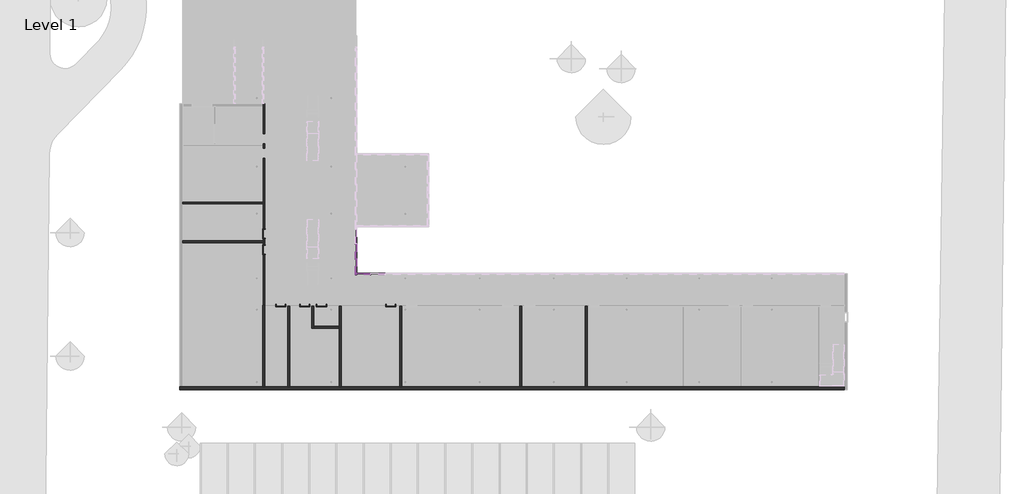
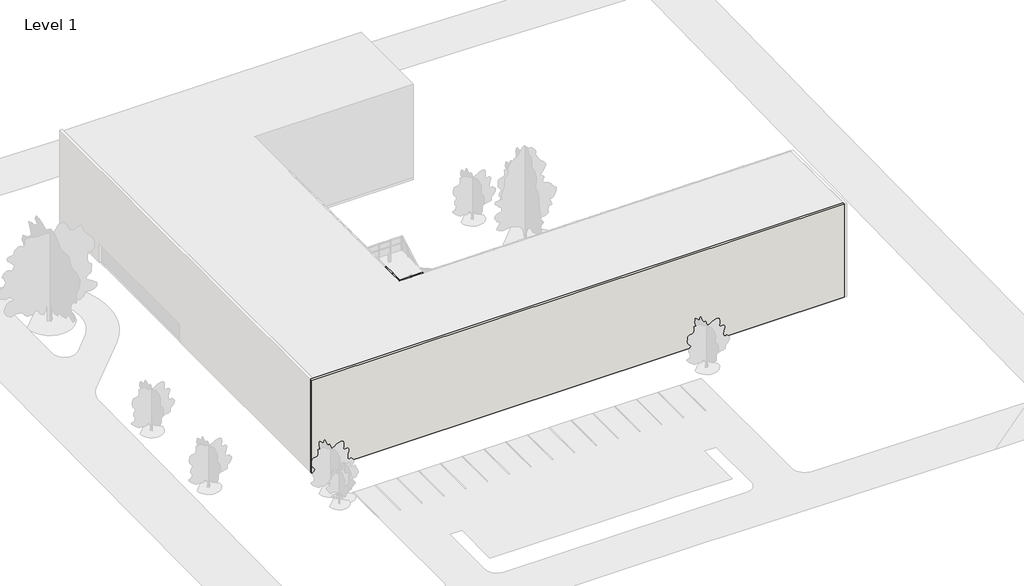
# One storey, part 1 of 23: 60 members, 32 plates, 12 walls, 6 doors.
"""IFC4 building model written with IfcOpenShell, lengths in millimetres."""

from ifc_helpers import new_model, si_unit, origin, origin_with_axes, place, context, project, spatial, polyline, outline, extrude, faceted_brep, transform, mapped, element, save
from components import door_0915mm_x_2134mm_2aa27b83, door_0915mm_x_2134mm_3fa07aa3, quad_corner_mullion_quad_mullion_1_893af7fe, quad_corner_mullion_quad_mullion_1_37ac55ff, quad_corner_mullion_quad_mullion_1_d5379b67, rectangular_mullion_50mm_x_150mm_5f185edf, rectangular_mullion_50mm_x_150mm_e13fe9f0, rectangular_mullion_50mm_x_150mm_70cae3e1, rectangular_mullion_50mm_x_150mm_5226f6e8, rectangular_mullion_50mm_x_150mm_4fd86324, rectangular_mullion_50mm_x_150mm_6edb5cd3, rectangular_mullion_50mm_x_150mm_bba830a1, rectangular_mullion_50mm_x_150mm_9219ffc6, rectangular_mullion_50mm_x_150mm_bbc1c4ea, rectangular_mullion_50mm_x_150mm_36202a7c, rectangular_mullion_50mm_x_150mm_84717ec5, system_panel_glazed_65478968, system_panel_glazed_0eb4fe1c, system_panel_glazed_4c130a31, system_panel_glazed_ff4bdd81, system_panel_glazed_979b1f5c, system_panel_glazed_2d0f29b6, system_panel_glazed_2f061a2c, system_panel_glazed_cb2ac81e, system_panel_solid_368a6b70, system_panel_solid_83e87f64, system_panel_solid_59448bce, system_panel_solid_281aa57f, system_panel_solid_7338a288, system_panel_solid_71fc82a1, system_panel_solid_0b170172

model = new_model("IFC4")

# Units and contexts
model_context = context("Model", 3, world=origin())
ifc_project = project(units=[si_unit("LENGTHUNIT", "METRE", prefix="MILLI")], contexts=[model_context])

# Site, building, storey
site = spatial("IfcSite", under=ifc_project)
building = spatial("IfcBuilding", under=site)
storey = spatial("IfcBuildingStorey", under=building, Name="Level 1", Elevation=0.0)

# Doors
placement = place(None, origin())
door_0915mm_x_2134mm_shape = door_0915mm_x_2134mm_2aa27b83(model_context)
element("IfcDoor", 1, ObjectType="m-doors-hm-f1-a : 0915mm x 2134mm", at=placement, inside=storey, context=model_context, shape_type="MappedRepresentation", body=[
    mapped(door_0915mm_x_2134mm_shape, transform((-1995.8386635, -8075.8611817, 0.0), x_axis=(0.0, 1.0, 0.0), y_axis=(-1.0, 0.0, 0.0), z_axis=(0.0, 0.0, 1.0))),
])
element("IfcDoor", 2, ObjectType="m-doors-hm-f1-a : 0915mm x 2134mm", at=placement, inside=storey, context=model_context, shape_type="MappedRepresentation", body=[
    mapped(door_0915mm_x_2134mm_shape, transform((-123.8386635, -15479.7006057, 0.0), x_axis=(-1.0, 0.0, 0.0), y_axis=(0.0, -1.0, 0.0), z_axis=(0.0, 0.0, 1.0))),
])
element("IfcDoor", 3, ObjectType="m-doors-hm-f1-a : 0915mm x 2134mm", at=placement, inside=storey, context=model_context, shape_type="MappedRepresentation", body=[
    mapped(door_0915mm_x_2134mm_shape, transform((2284.1613365, -15479.7006057, 0.0), x_axis=(-1.0, 0.0, 0.0), y_axis=(0.0, -1.0, 0.0), z_axis=(0.0, 0.0, 1.0))),
])
element("IfcDoor", 4, ObjectType="m-doors-hm-f1-a : 0915mm x 2134mm", at=placement, inside=storey, context=model_context, shape_type="MappedRepresentation", body=[
    mapped(door_0915mm_x_2134mm_shape, transform((10961.1968037, -15479.7006057, 0.0), x_axis=(-1.0, 0.0, 0.0), y_axis=(0.0, -1.0, 0.0), z_axis=(0.0, 0.0, 1.0))),
])
door_0915mm_x_2134mm_2_shape = door_0915mm_x_2134mm_3fa07aa3(model_context)
element("IfcDoor", 5, ObjectType="m-doors-hm-f1-a : 0915mm x 2134mm", at=placement, inside=storey, context=model_context, shape_type="MappedRepresentation", body=[
    mapped(door_0915mm_x_2134mm_2_shape, transform((-1995.8386635, -9675.8611817, 0.0), x_axis=(0.0, -1.0, 0.0), y_axis=(1.0, 0.0, 0.0), z_axis=(0.0, 0.0, 1.0))),
])
element("IfcDoor", 6, ObjectType="m-doors-hm-f1-a : 0915mm x 2134mm", at=placement, inside=storey, context=model_context, shape_type="MappedRepresentation", body=[
    mapped(door_0915mm_x_2134mm_2_shape, transform((3984.1613365, -15479.7006057, 0.0), x_axis=(1.0, 0.0, 0.0), y_axis=(0.0, 1.0, 0.0), z_axis=(0.0, 0.0, 1.0))),
])

# Members
quad_corner_mullion_quad_mullion_1_shape = quad_corner_mullion_quad_mullion_1_893af7fe(model_context)
element("IfcMember", 7, ObjectType="Quad Corner Mullion : Quad Mullion 1", at=placement, inside=storey, context=model_context, shape_type="MappedRepresentation", body=[
    mapped(quad_corner_mullion_quad_mullion_1_shape, transform((7447.5010724, -12132.3615692, 11400.0), x_axis=(-1.0, 0.0, 0.0), y_axis=(0.0, 1.0, 0.0), z_axis=(0.0, 0.0, -1.0))),
])
quad_corner_mullion_quad_mullion_1_2_shape = quad_corner_mullion_quad_mullion_1_37ac55ff(model_context)
element("IfcMember", 8, ObjectType="Quad Corner Mullion : Quad Mullion 1", at=placement, inside=storey, context=model_context, shape_type="MappedRepresentation", body=[
    mapped(quad_corner_mullion_quad_mullion_1_2_shape, transform((7447.5010724, -12132.3615692, 0.0), x_axis=(-1.0, 0.0, 0.0), y_axis=(0.0, 1.0, 0.0), z_axis=(0.0, 0.0, -1.0))),
])
quad_corner_mullion_quad_mullion_1_3_shape = quad_corner_mullion_quad_mullion_1_d5379b67(model_context)
element("IfcMember", 9, ObjectType="Quad Corner Mullion : Quad Mullion 1", at=placement, inside=storey, context=model_context, shape_type="MappedRepresentation", body=[
    mapped(quad_corner_mullion_quad_mullion_1_3_shape, transform((7447.5010724, -12132.3615692, 2440.0), x_axis=(-1.0, 0.0, 0.0), y_axis=(0.0, 1.0, 0.0), z_axis=(0.0, 0.0, -1.0))),
])
element("IfcMember", 10, ObjectType="Quad Corner Mullion : Quad Mullion 1", at=placement, inside=storey, context=model_context, shape_type="MappedRepresentation", body=[
    mapped(quad_corner_mullion_quad_mullion_1_3_shape, transform((7447.5010724, -12132.3615692, 6240.0), x_axis=(-1.0, 0.0, 0.0), y_axis=(0.0, 1.0, 0.0), z_axis=(0.0, 0.0, -1.0))),
])
element("IfcMember", 11, ObjectType="Quad Corner Mullion : Quad Mullion 1", at=placement, inside=storey, context=model_context, shape_type="MappedRepresentation", body=[
    mapped(quad_corner_mullion_quad_mullion_1_3_shape, transform((7447.5010724, -12132.3615692, 10040.0), x_axis=(-1.0, 0.0, 0.0), y_axis=(0.0, 1.0, 0.0), z_axis=(0.0, 0.0, -1.0))),
])
element("IfcMember", 12, ObjectType="Quad Corner Mullion : Quad Mullion 1", at=placement, inside=storey, context=model_context, shape_type="MappedRepresentation", body=[
    mapped(quad_corner_mullion_quad_mullion_1_2_shape, transform((7447.5010724, -12132.3615692, 3800.0), x_axis=(-1.0, 0.0, 0.0), y_axis=(0.0, 1.0, 0.0), z_axis=(0.0, 0.0, -1.0))),
])
element("IfcMember", 13, ObjectType="Quad Corner Mullion : Quad Mullion 1", at=placement, inside=storey, context=model_context, shape_type="MappedRepresentation", body=[
    mapped(quad_corner_mullion_quad_mullion_1_2_shape, transform((7447.5010724, -12132.3615692, 7600.0), x_axis=(-1.0, 0.0, 0.0), y_axis=(0.0, 1.0, 0.0), z_axis=(0.0, 0.0, -1.0))),
])
rectangular_mullion_50mm_x_150mm_shape = rectangular_mullion_50mm_x_150mm_5f185edf(model_context)
element("IfcMember", 14, ObjectType="Rectangular Mullion : 50mm x 150mm", at=placement, inside=storey, context=model_context, shape_type="MappedRepresentation", body=[
    mapped(rectangular_mullion_50mm_x_150mm_shape, transform((8964.9742928, -12132.3615692, 12400.0), x_axis=(0.0, 0.0, 1.0), y_axis=(0.0, 1.0, 0.0), z_axis=(-1.0, 0.0, 0.0))),
])
rectangular_mullion_50mm_x_150mm_2_shape = rectangular_mullion_50mm_x_150mm_e13fe9f0(model_context)
element("IfcMember", 15, ObjectType="Rectangular Mullion : 50mm x 150mm", at=placement, inside=storey, context=model_context, shape_type="MappedRepresentation", body=[
    mapped(rectangular_mullion_50mm_x_150mm_2_shape, transform((8964.9742928, -12132.3615692, 3800.0), x_axis=(0.0, 0.0, 1.0), y_axis=(0.0, 1.0, 0.0), z_axis=(-1.0, 0.0, 0.0))),
])
element("IfcMember", 16, ObjectType="Rectangular Mullion : 50mm x 150mm", at=placement, inside=storey, context=model_context, shape_type="MappedRepresentation", body=[
    mapped(rectangular_mullion_50mm_x_150mm_2_shape, transform((8964.9742928, -12132.3615692, 7600.0), x_axis=(0.0, 0.0, 1.0), y_axis=(0.0, 1.0, 0.0), z_axis=(-1.0, 0.0, 0.0))),
])
element("IfcMember", 17, ObjectType="Rectangular Mullion : 50mm x 150mm", at=placement, inside=storey, context=model_context, shape_type="MappedRepresentation", body=[
    mapped(rectangular_mullion_50mm_x_150mm_2_shape, transform((8964.9742928, -12132.3615692, 11400.0), x_axis=(0.0, 0.0, 1.0), y_axis=(0.0, 1.0, 0.0), z_axis=(-1.0, 0.0, 0.0))),
])
element("IfcMember", 18, ObjectType="Rectangular Mullion : 50mm x 150mm", at=placement, inside=storey, context=model_context, shape_type="MappedRepresentation", body=[
    mapped(rectangular_mullion_50mm_x_150mm_2_shape, transform((8964.9742928, -12132.3615692, 2440.0), x_axis=(0.0, 0.0, 1.0), y_axis=(0.0, 1.0, 0.0), z_axis=(-1.0, 0.0, 0.0))),
])
element("IfcMember", 19, ObjectType="Rectangular Mullion : 50mm x 150mm", at=placement, inside=storey, context=model_context, shape_type="MappedRepresentation", body=[
    mapped(rectangular_mullion_50mm_x_150mm_2_shape, transform((8964.9742928, -12132.3615692, 6240.0), x_axis=(0.0, 0.0, 1.0), y_axis=(0.0, 1.0, 0.0), z_axis=(-1.0, 0.0, 0.0))),
])
element("IfcMember", 20, ObjectType="Rectangular Mullion : 50mm x 150mm", at=placement, inside=storey, context=model_context, shape_type="MappedRepresentation", body=[
    mapped(rectangular_mullion_50mm_x_150mm_2_shape, transform((8964.9742928, -12132.3615692, 10040.0), x_axis=(0.0, 0.0, 1.0), y_axis=(0.0, 1.0, 0.0), z_axis=(-1.0, 0.0, 0.0))),
])
rectangular_mullion_50mm_x_150mm_3_shape = rectangular_mullion_50mm_x_150mm_70cae3e1(model_context)
element("IfcMember", 21, ObjectType="Rectangular Mullion : 50mm x 150mm", at=placement, inside=storey, context=model_context, shape_type="MappedRepresentation", body=[
    mapped(rectangular_mullion_50mm_x_150mm_3_shape, transform((7447.5010724, -9152.8662571, 12400.0), x_axis=(0.0, 0.0, 1.0), y_axis=(1.0, 0.0, 0.0), z_axis=(0.0, 1.0, 0.0))),
])
element("IfcMember", 22, ObjectType="Rectangular Mullion : 50mm x 150mm", at=placement, inside=storey, context=model_context, shape_type="MappedRepresentation", body=[
    mapped(rectangular_mullion_50mm_x_150mm_3_shape, transform((7447.5010724, -10605.113913, 0.0), x_axis=(0.0, 0.0, -1.0), y_axis=(1.0, 0.0, 0.0), z_axis=(0.0, -1.0, 0.0))),
])
element("IfcMember", 23, ObjectType="Rectangular Mullion : 50mm x 150mm", at=placement, inside=storey, context=model_context, shape_type="MappedRepresentation", body=[
    mapped(rectangular_mullion_50mm_x_150mm_3_shape, transform((7447.5010724, -9102.8662571, 0.0), x_axis=(0.0, 0.0, -1.0), y_axis=(1.0, 0.0, 0.0), z_axis=(0.0, -1.0, 0.0))),
])
rectangular_mullion_50mm_x_150mm_4_shape = rectangular_mullion_50mm_x_150mm_5226f6e8(model_context)
element("IfcMember", 24, ObjectType="Rectangular Mullion : 50mm x 150mm", at=placement, inside=storey, context=model_context, shape_type="MappedRepresentation", body=[
    mapped(rectangular_mullion_50mm_x_150mm_4_shape, transform((7447.5010724, -9152.8662571, 3800.0), x_axis=(0.0, 0.0, 1.0), y_axis=(1.0, 0.0, 0.0), z_axis=(0.0, 1.0, 0.0))),
])
element("IfcMember", 25, ObjectType="Rectangular Mullion : 50mm x 150mm", at=placement, inside=storey, context=model_context, shape_type="MappedRepresentation", body=[
    mapped(rectangular_mullion_50mm_x_150mm_4_shape, transform((7447.5010724, -9152.8662571, 7600.0), x_axis=(0.0, 0.0, 1.0), y_axis=(1.0, 0.0, 0.0), z_axis=(0.0, 1.0, 0.0))),
])
element("IfcMember", 26, ObjectType="Rectangular Mullion : 50mm x 150mm", at=placement, inside=storey, context=model_context, shape_type="MappedRepresentation", body=[
    mapped(rectangular_mullion_50mm_x_150mm_4_shape, transform((7447.5010724, -9152.8662571, 11400.0), x_axis=(0.0, 0.0, 1.0), y_axis=(1.0, 0.0, 0.0), z_axis=(0.0, 1.0, 0.0))),
])
element("IfcMember", 27, ObjectType="Rectangular Mullion : 50mm x 150mm", at=placement, inside=storey, context=model_context, shape_type="MappedRepresentation", body=[
    mapped(rectangular_mullion_50mm_x_150mm_4_shape, transform((7447.5010724, -9152.8662571, 10040.0), x_axis=(0.0, 0.0, 1.0), y_axis=(1.0, 0.0, 0.0), z_axis=(0.0, 1.0, 0.0))),
])
element("IfcMember", 28, ObjectType="Rectangular Mullion : 50mm x 150mm", at=placement, inside=storey, context=model_context, shape_type="MappedRepresentation", body=[
    mapped(rectangular_mullion_50mm_x_150mm_4_shape, transform((7447.5010724, -9152.8662571, 6240.0), x_axis=(0.0, 0.0, 1.0), y_axis=(1.0, 0.0, 0.0), z_axis=(0.0, 1.0, 0.0))),
])
element("IfcMember", 29, ObjectType="Rectangular Mullion : 50mm x 150mm", at=placement, inside=storey, context=model_context, shape_type="MappedRepresentation", body=[
    mapped(rectangular_mullion_50mm_x_150mm_4_shape, transform((7447.5010724, -9152.8662571, 2440.0), x_axis=(0.0, 0.0, 1.0), y_axis=(1.0, 0.0, 0.0), z_axis=(0.0, 1.0, 0.0))),
])
rectangular_mullion_50mm_x_150mm_5_shape = rectangular_mullion_50mm_x_150mm_4fd86324(model_context)
element("IfcMember", 30, ObjectType="Rectangular Mullion : 50mm x 150mm", at=placement, inside=storey, context=model_context, shape_type="MappedRepresentation", body=[
    mapped(rectangular_mullion_50mm_x_150mm_5_shape, transform((7447.5010724, -10655.113913, 12400.0), x_axis=(0.0, 0.0, 1.0), y_axis=(1.0, 0.0, 0.0), z_axis=(0.0, 1.0, 0.0))),
])
element("IfcMember", 31, ObjectType="Rectangular Mullion : 50mm x 150mm", at=placement, inside=storey, context=model_context, shape_type="MappedRepresentation", body=[
    mapped(rectangular_mullion_50mm_x_150mm_5_shape, transform((7447.5010724, -12057.3615692, 0.0), x_axis=(0.0, 0.0, -1.0), y_axis=(1.0, 0.0, 0.0), z_axis=(0.0, -1.0, 0.0))),
])
rectangular_mullion_50mm_x_150mm_6_shape = rectangular_mullion_50mm_x_150mm_6edb5cd3(model_context)
element("IfcMember", 32, ObjectType="Rectangular Mullion : 50mm x 150mm", at=placement, inside=storey, context=model_context, shape_type="MappedRepresentation", body=[
    mapped(rectangular_mullion_50mm_x_150mm_6_shape, transform((7447.5010724, -10655.113913, 3800.0), x_axis=(0.0, 0.0, 1.0), y_axis=(1.0, 0.0, 0.0), z_axis=(0.0, 1.0, 0.0))),
])
element("IfcMember", 33, ObjectType="Rectangular Mullion : 50mm x 150mm", at=placement, inside=storey, context=model_context, shape_type="MappedRepresentation", body=[
    mapped(rectangular_mullion_50mm_x_150mm_6_shape, transform((7447.5010724, -10655.113913, 7600.0), x_axis=(0.0, 0.0, 1.0), y_axis=(1.0, 0.0, 0.0), z_axis=(0.0, 1.0, 0.0))),
])
element("IfcMember", 34, ObjectType="Rectangular Mullion : 50mm x 150mm", at=placement, inside=storey, context=model_context, shape_type="MappedRepresentation", body=[
    mapped(rectangular_mullion_50mm_x_150mm_6_shape, transform((7447.5010724, -10655.113913, 11400.0), x_axis=(0.0, 0.0, 1.0), y_axis=(1.0, 0.0, 0.0), z_axis=(0.0, 1.0, 0.0))),
])
element("IfcMember", 35, ObjectType="Rectangular Mullion : 50mm x 150mm", at=placement, inside=storey, context=model_context, shape_type="MappedRepresentation", body=[
    mapped(rectangular_mullion_50mm_x_150mm_6_shape, transform((7447.5010724, -10655.113913, 10040.0), x_axis=(0.0, 0.0, 1.0), y_axis=(1.0, 0.0, 0.0), z_axis=(0.0, 1.0, 0.0))),
])
element("IfcMember", 36, ObjectType="Rectangular Mullion : 50mm x 150mm", at=placement, inside=storey, context=model_context, shape_type="MappedRepresentation", body=[
    mapped(rectangular_mullion_50mm_x_150mm_6_shape, transform((7447.5010724, -10655.113913, 6240.0), x_axis=(0.0, 0.0, 1.0), y_axis=(1.0, 0.0, 0.0), z_axis=(0.0, 1.0, 0.0))),
])
element("IfcMember", 37, ObjectType="Rectangular Mullion : 50mm x 150mm", at=placement, inside=storey, context=model_context, shape_type="MappedRepresentation", body=[
    mapped(rectangular_mullion_50mm_x_150mm_6_shape, transform((7447.5010724, -10655.113913, 2440.0), x_axis=(0.0, 0.0, 1.0), y_axis=(1.0, 0.0, 0.0), z_axis=(0.0, 1.0, 0.0))),
])
rectangular_mullion_50mm_x_150mm_7_shape = rectangular_mullion_50mm_x_150mm_bba830a1(model_context)
element("IfcMember", 38, ObjectType="Rectangular Mullion : 50mm x 150mm", at=placement, inside=storey, context=model_context, shape_type="MappedRepresentation", body=[
    mapped(rectangular_mullion_50mm_x_150mm_7_shape, transform((7522.5010724, -12132.3615692, 12400.0), x_axis=(0.0, 0.0, 1.0), y_axis=(0.0, 1.0, 0.0), z_axis=(-1.0, 0.0, 0.0))),
])
element("IfcMember", 39, ObjectType="Rectangular Mullion : 50mm x 150mm", at=placement, inside=storey, context=model_context, shape_type="MappedRepresentation", body=[
    mapped(rectangular_mullion_50mm_x_150mm_7_shape, transform((8914.9742928, -12132.3615692, 0.0), x_axis=(0.0, 0.0, -1.0), y_axis=(0.0, 1.0, 0.0), z_axis=(1.0, 0.0, 0.0))),
])
rectangular_mullion_50mm_x_150mm_8_shape = rectangular_mullion_50mm_x_150mm_9219ffc6(model_context)
element("IfcMember", 40, ObjectType="Rectangular Mullion : 50mm x 150mm", at=placement, inside=storey, context=model_context, shape_type="MappedRepresentation", body=[
    mapped(rectangular_mullion_50mm_x_150mm_8_shape, transform((7522.5010724, -12132.3615692, 3800.0), x_axis=(0.0, 0.0, 1.0), y_axis=(0.0, 1.0, 0.0), z_axis=(-1.0, 0.0, 0.0))),
])
element("IfcMember", 41, ObjectType="Rectangular Mullion : 50mm x 150mm", at=placement, inside=storey, context=model_context, shape_type="MappedRepresentation", body=[
    mapped(rectangular_mullion_50mm_x_150mm_8_shape, transform((7522.5010724, -12132.3615692, 7600.0), x_axis=(0.0, 0.0, 1.0), y_axis=(0.0, 1.0, 0.0), z_axis=(-1.0, 0.0, 0.0))),
])
element("IfcMember", 42, ObjectType="Rectangular Mullion : 50mm x 150mm", at=placement, inside=storey, context=model_context, shape_type="MappedRepresentation", body=[
    mapped(rectangular_mullion_50mm_x_150mm_8_shape, transform((7522.5010724, -12132.3615692, 11400.0), x_axis=(0.0, 0.0, 1.0), y_axis=(0.0, 1.0, 0.0), z_axis=(-1.0, 0.0, 0.0))),
])
element("IfcMember", 43, ObjectType="Rectangular Mullion : 50mm x 150mm", at=placement, inside=storey, context=model_context, shape_type="MappedRepresentation", body=[
    mapped(rectangular_mullion_50mm_x_150mm_8_shape, transform((7522.5010724, -12132.3615692, 2440.0), x_axis=(0.0, 0.0, 1.0), y_axis=(0.0, 1.0, 0.0), z_axis=(-1.0, 0.0, 0.0))),
])
element("IfcMember", 44, ObjectType="Rectangular Mullion : 50mm x 150mm", at=placement, inside=storey, context=model_context, shape_type="MappedRepresentation", body=[
    mapped(rectangular_mullion_50mm_x_150mm_8_shape, transform((7522.5010724, -12132.3615692, 6240.0), x_axis=(0.0, 0.0, 1.0), y_axis=(0.0, 1.0, 0.0), z_axis=(-1.0, 0.0, 0.0))),
])
element("IfcMember", 45, ObjectType="Rectangular Mullion : 50mm x 150mm", at=placement, inside=storey, context=model_context, shape_type="MappedRepresentation", body=[
    mapped(rectangular_mullion_50mm_x_150mm_8_shape, transform((7522.5010724, -12132.3615692, 10040.0), x_axis=(0.0, 0.0, 1.0), y_axis=(0.0, 1.0, 0.0), z_axis=(-1.0, 0.0, 0.0))),
])
rectangular_mullion_50mm_x_150mm_9_shape = rectangular_mullion_50mm_x_150mm_bbc1c4ea(model_context)
element("IfcMember", 46, ObjectType="Rectangular Mullion : 50mm x 150mm", at=placement, inside=storey, context=model_context, shape_type="MappedRepresentation", body=[
    mapped(rectangular_mullion_50mm_x_150mm_9_shape, transform((8939.9742928, -12132.3615692, 11400.0), x_axis=(-1.0, 0.0, 0.0), y_axis=(0.0, 1.0, 0.0), z_axis=(0.0, 0.0, -1.0))),
])
element("IfcMember", 47, ObjectType="Rectangular Mullion : 50mm x 150mm", at=placement, inside=storey, context=model_context, shape_type="MappedRepresentation", body=[
    mapped(rectangular_mullion_50mm_x_150mm_9_shape, transform((7447.5010724, -10630.113913, 11400.0), x_axis=(0.0, 1.0, 0.0), y_axis=(1.0, 0.0, 0.0), z_axis=(0.0, 0.0, -1.0))),
])
element("IfcMember", 48, ObjectType="Rectangular Mullion : 50mm x 150mm", at=placement, inside=storey, context=model_context, shape_type="MappedRepresentation", body=[
    mapped(rectangular_mullion_50mm_x_150mm_9_shape, transform((7447.5010724, -9127.8662571, 11400.0), x_axis=(0.0, 1.0, 0.0), y_axis=(1.0, 0.0, 0.0), z_axis=(0.0, 0.0, -1.0))),
])
rectangular_mullion_50mm_x_150mm_10_shape = rectangular_mullion_50mm_x_150mm_36202a7c(model_context)
element("IfcMember", 49, ObjectType="Rectangular Mullion : 50mm x 150mm", at=placement, inside=storey, context=model_context, shape_type="MappedRepresentation", body=[
    mapped(rectangular_mullion_50mm_x_150mm_10_shape, transform((8939.9742928, -12132.3615692, 0.0), x_axis=(-1.0, 0.0, 0.0), y_axis=(0.0, 1.0, 0.0), z_axis=(0.0, 0.0, -1.0))),
])
element("IfcMember", 50, ObjectType="Rectangular Mullion : 50mm x 150mm", at=placement, inside=storey, context=model_context, shape_type="MappedRepresentation", body=[
    mapped(rectangular_mullion_50mm_x_150mm_10_shape, transform((7447.5010724, -10630.113913, 0.0), x_axis=(0.0, 1.0, 0.0), y_axis=(1.0, 0.0, 0.0), z_axis=(0.0, 0.0, -1.0))),
])
element("IfcMember", 51, ObjectType="Rectangular Mullion : 50mm x 150mm", at=placement, inside=storey, context=model_context, shape_type="MappedRepresentation", body=[
    mapped(rectangular_mullion_50mm_x_150mm_10_shape, transform((7447.5010724, -9127.8662571, 0.0), x_axis=(0.0, 1.0, 0.0), y_axis=(1.0, 0.0, 0.0), z_axis=(0.0, 0.0, -1.0))),
])
rectangular_mullion_50mm_x_150mm_11_shape = rectangular_mullion_50mm_x_150mm_84717ec5(model_context)
element("IfcMember", 52, ObjectType="Rectangular Mullion : 50mm x 150mm", at=placement, inside=storey, context=model_context, shape_type="MappedRepresentation", body=[
    mapped(rectangular_mullion_50mm_x_150mm_11_shape, transform((8939.9742928, -12132.3615692, 2440.0), x_axis=(-1.0, 0.0, 0.0), y_axis=(0.0, 1.0, 0.0), z_axis=(0.0, 0.0, -1.0))),
])
element("IfcMember", 53, ObjectType="Rectangular Mullion : 50mm x 150mm", at=placement, inside=storey, context=model_context, shape_type="MappedRepresentation", body=[
    mapped(rectangular_mullion_50mm_x_150mm_11_shape, transform((8939.9742928, -12132.3615692, 6240.0), x_axis=(-1.0, 0.0, 0.0), y_axis=(0.0, 1.0, 0.0), z_axis=(0.0, 0.0, -1.0))),
])
element("IfcMember", 54, ObjectType="Rectangular Mullion : 50mm x 150mm", at=placement, inside=storey, context=model_context, shape_type="MappedRepresentation", body=[
    mapped(rectangular_mullion_50mm_x_150mm_11_shape, transform((8939.9742928, -12132.3615692, 10040.0), x_axis=(-1.0, 0.0, 0.0), y_axis=(0.0, 1.0, 0.0), z_axis=(0.0, 0.0, -1.0))),
])
element("IfcMember", 55, ObjectType="Rectangular Mullion : 50mm x 150mm", at=placement, inside=storey, context=model_context, shape_type="MappedRepresentation", body=[
    mapped(rectangular_mullion_50mm_x_150mm_11_shape, transform((7447.5010724, -10630.113913, 10040.0), x_axis=(0.0, 1.0, 0.0), y_axis=(1.0, 0.0, 0.0), z_axis=(0.0, 0.0, -1.0))),
])
element("IfcMember", 56, ObjectType="Rectangular Mullion : 50mm x 150mm", at=placement, inside=storey, context=model_context, shape_type="MappedRepresentation", body=[
    mapped(rectangular_mullion_50mm_x_150mm_11_shape, transform((7447.5010724, -9127.8662571, 10040.0), x_axis=(0.0, 1.0, 0.0), y_axis=(1.0, 0.0, 0.0), z_axis=(0.0, 0.0, -1.0))),
])
element("IfcMember", 57, ObjectType="Rectangular Mullion : 50mm x 150mm", at=placement, inside=storey, context=model_context, shape_type="MappedRepresentation", body=[
    mapped(rectangular_mullion_50mm_x_150mm_11_shape, transform((7447.5010724, -10630.113913, 6240.0), x_axis=(0.0, 1.0, 0.0), y_axis=(1.0, 0.0, 0.0), z_axis=(0.0, 0.0, -1.0))),
])
element("IfcMember", 58, ObjectType="Rectangular Mullion : 50mm x 150mm", at=placement, inside=storey, context=model_context, shape_type="MappedRepresentation", body=[
    mapped(rectangular_mullion_50mm_x_150mm_11_shape, transform((7447.5010724, -9127.8662571, 6240.0), x_axis=(0.0, 1.0, 0.0), y_axis=(1.0, 0.0, 0.0), z_axis=(0.0, 0.0, -1.0))),
])
element("IfcMember", 59, ObjectType="Rectangular Mullion : 50mm x 150mm", at=placement, inside=storey, context=model_context, shape_type="MappedRepresentation", body=[
    mapped(rectangular_mullion_50mm_x_150mm_11_shape, transform((7447.5010724, -10630.113913, 2440.0), x_axis=(0.0, 1.0, 0.0), y_axis=(1.0, 0.0, 0.0), z_axis=(0.0, 0.0, -1.0))),
])
element("IfcMember", 60, ObjectType="Rectangular Mullion : 50mm x 150mm", at=placement, inside=storey, context=model_context, shape_type="MappedRepresentation", body=[
    mapped(rectangular_mullion_50mm_x_150mm_11_shape, transform((7447.5010724, -9127.8662571, 2440.0), x_axis=(0.0, 1.0, 0.0), y_axis=(1.0, 0.0, 0.0), z_axis=(0.0, 0.0, -1.0))),
])
element("IfcMember", 61, ObjectType="Rectangular Mullion : 50mm x 150mm", at=placement, inside=storey, context=model_context, shape_type="MappedRepresentation", body=[
    mapped(rectangular_mullion_50mm_x_150mm_10_shape, transform((8939.9742928, -12132.3615692, 3800.0), x_axis=(-1.0, 0.0, 0.0), y_axis=(0.0, 1.0, 0.0), z_axis=(0.0, 0.0, -1.0))),
])
element("IfcMember", 62, ObjectType="Rectangular Mullion : 50mm x 150mm", at=placement, inside=storey, context=model_context, shape_type="MappedRepresentation", body=[
    mapped(rectangular_mullion_50mm_x_150mm_10_shape, transform((8939.9742928, -12132.3615692, 7600.0), x_axis=(-1.0, 0.0, 0.0), y_axis=(0.0, 1.0, 0.0), z_axis=(0.0, 0.0, -1.0))),
])
element("IfcMember", 63, ObjectType="Rectangular Mullion : 50mm x 150mm", at=placement, inside=storey, context=model_context, shape_type="MappedRepresentation", body=[
    mapped(rectangular_mullion_50mm_x_150mm_10_shape, transform((7447.5010724, -10630.113913, 3800.0), x_axis=(0.0, 1.0, 0.0), y_axis=(1.0, 0.0, 0.0), z_axis=(0.0, 0.0, -1.0))),
])
element("IfcMember", 64, ObjectType="Rectangular Mullion : 50mm x 150mm", at=placement, inside=storey, context=model_context, shape_type="MappedRepresentation", body=[
    mapped(rectangular_mullion_50mm_x_150mm_10_shape, transform((7447.5010724, -9127.8662571, 3800.0), x_axis=(0.0, 1.0, 0.0), y_axis=(1.0, 0.0, 0.0), z_axis=(0.0, 0.0, -1.0))),
])
element("IfcMember", 65, ObjectType="Rectangular Mullion : 50mm x 150mm", at=placement, inside=storey, context=model_context, shape_type="MappedRepresentation", body=[
    mapped(rectangular_mullion_50mm_x_150mm_10_shape, transform((7447.5010724, -10630.113913, 7600.0), x_axis=(0.0, 1.0, 0.0), y_axis=(1.0, 0.0, 0.0), z_axis=(0.0, 0.0, -1.0))),
])
element("IfcMember", 66, ObjectType="Rectangular Mullion : 50mm x 150mm", at=placement, inside=storey, context=model_context, shape_type="MappedRepresentation", body=[
    mapped(rectangular_mullion_50mm_x_150mm_10_shape, transform((7447.5010724, -9127.8662571, 7600.0), x_axis=(0.0, 1.0, 0.0), y_axis=(1.0, 0.0, 0.0), z_axis=(0.0, 0.0, -1.0))),
])

# Plates
system_panel_glazed_shape = system_panel_glazed_65478968(model_context)
element("IfcPlate", 67, ObjectType="System Panel : Glazed", at=placement, inside=storey, context=model_context, shape_type="MappedRepresentation", body=[
    mapped(system_panel_glazed_shape, transform((9686.2109029, -12132.3615692, 50.0), x_axis=(-1.0, 0.0, 0.0), y_axis=(0.0, -1.0, 0.0), z_axis=(0.0, 0.0, 1.0))),
])
system_panel_glazed_2_shape = system_panel_glazed_0eb4fe1c(model_context)
element("IfcPlate", 68, ObjectType="System Panel : Glazed", at=placement, inside=storey, context=model_context, shape_type="MappedRepresentation", body=[
    mapped(system_panel_glazed_2_shape, transform((8218.7376826, -12132.3615692, 50.0), x_axis=(-1.0, 0.0, 0.0), y_axis=(0.0, -1.0, 0.0), z_axis=(0.0, 0.0, 1.0))),
])
system_panel_glazed_3_shape = system_panel_glazed_4c130a31(model_context)
element("IfcPlate", 69, ObjectType="System Panel : Glazed", at=placement, inside=storey, context=model_context, shape_type="MappedRepresentation", body=[
    mapped(system_panel_glazed_3_shape, transform((9686.2109029, -12132.3615692, 3825.0), x_axis=(-1.0, 0.0, 0.0), y_axis=(0.0, -1.0, 0.0), z_axis=(0.0, 0.0, 1.0))),
])
element("IfcPlate", 70, ObjectType="System Panel : Glazed", at=placement, inside=storey, context=model_context, shape_type="MappedRepresentation", body=[
    mapped(system_panel_glazed_3_shape, transform((9686.2109029, -12132.3615692, 7625.0), x_axis=(-1.0, 0.0, 0.0), y_axis=(0.0, -1.0, 0.0), z_axis=(0.0, 0.0, 1.0))),
])
system_panel_glazed_4_shape = system_panel_glazed_ff4bdd81(model_context)
element("IfcPlate", 71, ObjectType="System Panel : Glazed", at=placement, inside=storey, context=model_context, shape_type="MappedRepresentation", body=[
    mapped(system_panel_glazed_4_shape, transform((8218.7376826, -12132.3615692, 3825.0), x_axis=(-1.0, 0.0, 0.0), y_axis=(0.0, -1.0, 0.0), z_axis=(0.0, 0.0, 1.0))),
])
element("IfcPlate", 72, ObjectType="System Panel : Glazed", at=placement, inside=storey, context=model_context, shape_type="MappedRepresentation", body=[
    mapped(system_panel_glazed_4_shape, transform((8218.7376826, -12132.3615692, 7625.0), x_axis=(-1.0, 0.0, 0.0), y_axis=(0.0, -1.0, 0.0), z_axis=(0.0, 0.0, 1.0))),
])
system_panel_glazed_5_shape = system_panel_glazed_979b1f5c(model_context)
element("IfcPlate", 73, ObjectType="System Panel : Glazed", at=placement, inside=storey, context=model_context, shape_type="MappedRepresentation", body=[
    mapped(system_panel_glazed_5_shape, transform((7447.5010724, -9878.990085, 3825.0), x_axis=(0.0, 1.0, 0.0), y_axis=(-1.0, 0.0, 0.0), z_axis=(0.0, 0.0, 1.0))),
])
element("IfcPlate", 74, ObjectType="System Panel : Glazed", at=placement, inside=storey, context=model_context, shape_type="MappedRepresentation", body=[
    mapped(system_panel_glazed_5_shape, transform((7447.5010724, -8376.7424291, 3825.0), x_axis=(0.0, 1.0, 0.0), y_axis=(-1.0, 0.0, 0.0), z_axis=(0.0, 0.0, 1.0))),
])
element("IfcPlate", 75, ObjectType="System Panel : Glazed", at=placement, inside=storey, context=model_context, shape_type="MappedRepresentation", body=[
    mapped(system_panel_glazed_5_shape, transform((7447.5010724, -9878.990085, 7625.0), x_axis=(0.0, 1.0, 0.0), y_axis=(-1.0, 0.0, 0.0), z_axis=(0.0, 0.0, 1.0))),
])
element("IfcPlate", 76, ObjectType="System Panel : Glazed", at=placement, inside=storey, context=model_context, shape_type="MappedRepresentation", body=[
    mapped(system_panel_glazed_5_shape, transform((7447.5010724, -8376.7424291, 7625.0), x_axis=(0.0, 1.0, 0.0), y_axis=(-1.0, 0.0, 0.0), z_axis=(0.0, 0.0, 1.0))),
])
system_panel_glazed_6_shape = system_panel_glazed_2d0f29b6(model_context)
element("IfcPlate", 77, ObjectType="System Panel : Glazed", at=placement, inside=storey, context=model_context, shape_type="MappedRepresentation", body=[
    mapped(system_panel_glazed_6_shape, transform((7447.5010724, -11356.2377411, 3825.0), x_axis=(0.0, 1.0, 0.0), y_axis=(-1.0, 0.0, 0.0), z_axis=(0.0, 0.0, 1.0))),
])
element("IfcPlate", 78, ObjectType="System Panel : Glazed", at=placement, inside=storey, context=model_context, shape_type="MappedRepresentation", body=[
    mapped(system_panel_glazed_6_shape, transform((7447.5010724, -11356.2377411, 7625.0), x_axis=(0.0, 1.0, 0.0), y_axis=(-1.0, 0.0, 0.0), z_axis=(0.0, 0.0, 1.0))),
])
system_panel_glazed_7_shape = system_panel_glazed_2f061a2c(model_context)
element("IfcPlate", 79, ObjectType="System Panel : Glazed", at=placement, inside=storey, context=model_context, shape_type="MappedRepresentation", body=[
    mapped(system_panel_glazed_7_shape, transform((7447.5010724, -9878.990085, 50.0), x_axis=(0.0, 1.0, 0.0), y_axis=(-1.0, 0.0, 0.0), z_axis=(0.0, 0.0, 1.0))),
])
element("IfcPlate", 80, ObjectType="System Panel : Glazed", at=placement, inside=storey, context=model_context, shape_type="MappedRepresentation", body=[
    mapped(system_panel_glazed_7_shape, transform((7447.5010724, -8376.7424291, 50.0), x_axis=(0.0, 1.0, 0.0), y_axis=(-1.0, 0.0, 0.0), z_axis=(0.0, 0.0, 1.0))),
])
system_panel_glazed_8_shape = system_panel_glazed_cb2ac81e(model_context)
element("IfcPlate", 81, ObjectType="System Panel : Glazed", at=placement, inside=storey, context=model_context, shape_type="MappedRepresentation", body=[
    mapped(system_panel_glazed_8_shape, transform((7447.5010724, -11356.2377411, 50.0), x_axis=(0.0, 1.0, 0.0), y_axis=(-1.0, 0.0, 0.0), z_axis=(0.0, 0.0, 1.0))),
])
system_panel_solid_shape = system_panel_solid_368a6b70(model_context)
element("IfcPlate", 82, ObjectType="System Panel : Solid", at=placement, inside=storey, context=model_context, shape_type="MappedRepresentation", body=[
    mapped(system_panel_solid_shape, transform((9686.2109029, -12132.3615692, 11425.0), x_axis=(-1.0, 0.0, 0.0), y_axis=(0.0, -1.0, 0.0), z_axis=(0.0, 0.0, 1.0))),
])
system_panel_solid_2_shape = system_panel_solid_83e87f64(model_context)
element("IfcPlate", 83, ObjectType="System Panel : Solid", at=placement, inside=storey, context=model_context, shape_type="MappedRepresentation", body=[
    mapped(system_panel_solid_2_shape, transform((8218.7376826, -12132.3615692, 11425.0), x_axis=(-1.0, 0.0, 0.0), y_axis=(0.0, -1.0, 0.0), z_axis=(0.0, 0.0, 1.0))),
])
system_panel_solid_3_shape = system_panel_solid_59448bce(model_context)
element("IfcPlate", 84, ObjectType="System Panel : Solid", at=placement, inside=storey, context=model_context, shape_type="MappedRepresentation", body=[
    mapped(system_panel_solid_3_shape, transform((8218.7376826, -12132.3615692, 2465.0), x_axis=(-1.0, 0.0, 0.0), y_axis=(0.0, -1.0, 0.0), z_axis=(0.0, 0.0, 1.0))),
])
element("IfcPlate", 85, ObjectType="System Panel : Solid", at=placement, inside=storey, context=model_context, shape_type="MappedRepresentation", body=[
    mapped(system_panel_solid_3_shape, transform((8218.7376826, -12132.3615692, 6265.0), x_axis=(-1.0, 0.0, 0.0), y_axis=(0.0, -1.0, 0.0), z_axis=(0.0, 0.0, 1.0))),
])
element("IfcPlate", 86, ObjectType="System Panel : Solid", at=placement, inside=storey, context=model_context, shape_type="MappedRepresentation", body=[
    mapped(system_panel_solid_3_shape, transform((8218.7376826, -12132.3615692, 10065.0), x_axis=(-1.0, 0.0, 0.0), y_axis=(0.0, -1.0, 0.0), z_axis=(0.0, 0.0, 1.0))),
])
system_panel_solid_4_shape = system_panel_solid_281aa57f(model_context)
element("IfcPlate", 87, ObjectType="System Panel : Solid", at=placement, inside=storey, context=model_context, shape_type="MappedRepresentation", body=[
    mapped(system_panel_solid_4_shape, transform((7447.5010724, -11356.2377411, 11425.0), x_axis=(0.0, 1.0, 0.0), y_axis=(-1.0, 0.0, 0.0), z_axis=(0.0, 0.0, 1.0))),
])
system_panel_solid_5_shape = system_panel_solid_7338a288(model_context)
element("IfcPlate", 88, ObjectType="System Panel : Solid", at=placement, inside=storey, context=model_context, shape_type="MappedRepresentation", body=[
    mapped(system_panel_solid_5_shape, transform((7447.5010724, -9878.990085, 11425.0), x_axis=(0.0, 1.0, 0.0), y_axis=(-1.0, 0.0, 0.0), z_axis=(0.0, 0.0, 1.0))),
])
element("IfcPlate", 89, ObjectType="System Panel : Solid", at=placement, inside=storey, context=model_context, shape_type="MappedRepresentation", body=[
    mapped(system_panel_solid_5_shape, transform((7447.5010724, -8376.7424291, 11425.0), x_axis=(0.0, 1.0, 0.0), y_axis=(-1.0, 0.0, 0.0), z_axis=(0.0, 0.0, 1.0))),
])
system_panel_solid_6_shape = system_panel_solid_71fc82a1(model_context)
element("IfcPlate", 90, ObjectType="System Panel : Solid", at=placement, inside=storey, context=model_context, shape_type="MappedRepresentation", body=[
    mapped(system_panel_solid_6_shape, transform((7447.5010724, -11356.2377411, 10065.0), x_axis=(0.0, 1.0, 0.0), y_axis=(-1.0, 0.0, 0.0), z_axis=(0.0, 0.0, 1.0))),
])
element("IfcPlate", 91, ObjectType="System Panel : Solid", at=placement, inside=storey, context=model_context, shape_type="MappedRepresentation", body=[
    mapped(system_panel_solid_6_shape, transform((7447.5010724, -11356.2377411, 6265.0), x_axis=(0.0, 1.0, 0.0), y_axis=(-1.0, 0.0, 0.0), z_axis=(0.0, 0.0, 1.0))),
])
element("IfcPlate", 92, ObjectType="System Panel : Solid", at=placement, inside=storey, context=model_context, shape_type="MappedRepresentation", body=[
    mapped(system_panel_solid_6_shape, transform((7447.5010724, -11356.2377411, 2465.0), x_axis=(0.0, 1.0, 0.0), y_axis=(-1.0, 0.0, 0.0), z_axis=(0.0, 0.0, 1.0))),
])
system_panel_solid_7_shape = system_panel_solid_0b170172(model_context)
element("IfcPlate", 93, ObjectType="System Panel : Solid", at=placement, inside=storey, context=model_context, shape_type="MappedRepresentation", body=[
    mapped(system_panel_solid_7_shape, transform((7447.5010724, -9878.990085, 10065.0), x_axis=(0.0, 1.0, 0.0), y_axis=(-1.0, 0.0, 0.0), z_axis=(0.0, 0.0, 1.0))),
])
element("IfcPlate", 94, ObjectType="System Panel : Solid", at=placement, inside=storey, context=model_context, shape_type="MappedRepresentation", body=[
    mapped(system_panel_solid_7_shape, transform((7447.5010724, -8376.7424291, 10065.0), x_axis=(0.0, 1.0, 0.0), y_axis=(-1.0, 0.0, 0.0), z_axis=(0.0, 0.0, 1.0))),
])
element("IfcPlate", 95, ObjectType="System Panel : Solid", at=placement, inside=storey, context=model_context, shape_type="MappedRepresentation", body=[
    mapped(system_panel_solid_7_shape, transform((7447.5010724, -9878.990085, 6265.0), x_axis=(0.0, 1.0, 0.0), y_axis=(-1.0, 0.0, 0.0), z_axis=(0.0, 0.0, 1.0))),
])
element("IfcPlate", 96, ObjectType="System Panel : Solid", at=placement, inside=storey, context=model_context, shape_type="MappedRepresentation", body=[
    mapped(system_panel_solid_7_shape, transform((7447.5010724, -8376.7424291, 6265.0), x_axis=(0.0, 1.0, 0.0), y_axis=(-1.0, 0.0, 0.0), z_axis=(0.0, 0.0, 1.0))),
])
element("IfcPlate", 97, ObjectType="System Panel : Solid", at=placement, inside=storey, context=model_context, shape_type="MappedRepresentation", body=[
    mapped(system_panel_solid_7_shape, transform((7447.5010724, -9878.990085, 2465.0), x_axis=(0.0, 1.0, 0.0), y_axis=(-1.0, 0.0, 0.0), z_axis=(0.0, 0.0, 1.0))),
])
element("IfcPlate", 98, ObjectType="System Panel : Solid", at=placement, inside=storey, context=model_context, shape_type="MappedRepresentation", body=[
    mapped(system_panel_solid_7_shape, transform((7447.5010724, -8376.7424291, 2465.0), x_axis=(0.0, 1.0, 0.0), y_axis=(-1.0, 0.0, 0.0), z_axis=(0.0, 0.0, 1.0))),
])

# Walls
element("IfcWall", 99, ObjectType="P6 184mm - 1HR - ULC #W453", at=placement, inside=storey, context=model_context, shape_type="Brep", body=[
    faceted_brep([(-1912.8386635, -15304.7006057, 0.0), (-1912.8386635, -15304.7006057, 3550.0), (-1912.8386635, -8967.8611817, 3550.0), (-1912.8386635, -8783.8611817, 3550.0), (-1912.8386635, -5067.8611817, 3550.0), (-1912.8386635, -4883.8611817, 3550.0), (-1912.8386635, 726.5392059, 3550.0), (-1912.8386635, 910.5392059, 3550.0), (-1912.8386635, 4720.5799804, 3550.0), (-1912.8386635, 5022.5799804, 3550.0), (-1912.8386635, 5022.5799804, 0.0), (-1912.8386635, 4720.5799804, 0.0), (-1912.8386635, 2026.0392059, 0.0), (-1912.8386635, 2026.0392059, 2184.0), (-1912.8386635, 1011.0392059, 2184.0), (-1912.8386635, 1011.0392059, 0.0), (-1912.8386635, 910.5392059, 0.0), (-1912.8386635, 726.5392059, 0.0), (-1912.8386635, 526.0392059, 0.0), (-1912.8386635, 526.0392059, 2184.0), (-1912.8386635, -488.9607941, 2184.0), (-1912.8386635, -488.9607941, 0.0), (-1912.8386635, -4883.8611817, 0.0), (-1912.8386635, -5067.8611817, 0.0), (-1912.8386635, -7568.3611817, 0.0), (-1912.8386635, -7568.3611817, 2184.0), (-1912.8386635, -8583.3611817, 2184.0), (-1912.8386635, -8583.3611817, 0.0), (-1912.8386635, -8783.8611817, 0.0), (-1912.8386635, -8967.8611817, 0.0), (-1912.8386635, -9168.3611817, 0.0), (-1912.8386635, -9168.3611817, 2184.0), (-1912.8386635, -10183.3611817, 2184.0), (-1912.8386635, -10183.3611817, 0.0), (-1728.8386635, -15304.7006057, 3550.0), (-1728.8386635, -15304.7006057, 0.0), (-1728.8386635, -15212.7006057, 0.0), (-1728.8386635, -10183.3611817, 0.0), (-1728.8386635, -10183.3611817, 2184.0), (-1728.8386635, -9168.3611817, 2184.0), (-1728.8386635, -9168.3611817, 0.0), (-1728.8386635, -8583.3611817, 0.0), (-1728.8386635, -8583.3611817, 2184.0), (-1728.8386635, -7568.3611817, 2184.0), (-1728.8386635, -7568.3611817, 0.0), (-1728.8386635, -488.9607941, 0.0), (-1728.8386635, -488.9607941, 2184.0), (-1728.8386635, 526.0392059, 2184.0), (-1728.8386635, 526.0392059, 0.0), (-1728.8386635, 1011.0392059, 0.0), (-1728.8386635, 1011.0392059, 2184.0), (-1728.8386635, 2026.0392059, 2184.0), (-1728.8386635, 2026.0392059, 0.0), (-1728.8386635, 5022.5799804, 0.0), (-1728.8386635, 5022.5799804, 3550.0), (-1728.8386635, -15212.7006057, 3550.0)], [[[0, 1, 2, 3, 4, 5, 6, 7, 8, 9, 10, 11, 12, 13, 14, 15, 16, 17, 18, 19, 20, 21, 22, 23, 24, 25, 26, 27, 28, 29, 30, 31, 32, 33]], [[34, 35, 36, 37, 38, 39, 40, 41, 42, 43, 44, 45, 46, 47, 48, 49, 50, 51, 52, 53, 54, 55]], [[10, 53, 52, 12, 11]], [[35, 0, 33, 37, 36]], [[15, 49, 48, 18, 17, 16]], [[21, 45, 44, 24, 23, 22]], [[27, 41, 40, 30, 29, 28]], [[1, 0, 35, 34]], [[9, 8, 7, 6, 5, 4, 3, 2, 1, 34, 55, 54]], [[10, 9, 54, 53]], [[51, 13, 12, 52]], [[13, 51, 50, 14]], [[14, 50, 49, 15]], [[21, 20, 46, 45]], [[20, 19, 47, 46]], [[19, 18, 48, 47]], [[43, 25, 24, 44]], [[25, 43, 42, 26]], [[26, 42, 41, 27]], [[32, 38, 37, 33]], [[38, 32, 31, 39]], [[39, 31, 30, 40]]]),
])
element("IfcWall", 100, ObjectType="P6 184mm - 1HR - ULC #W453", at=placement, inside=storey, context=model_context, shape_type="SweptSolid", body=[
    extrude(outline(polyline([(-1912.8386635, -5067.8611817), (-10026.8386635, -5067.8611817), (-10026.8386635, -4883.8611817), (-1912.8386635, -4883.8611817), (-1912.8386635, -5067.8611817)])), origin_with_axes(), (0.0, 0.0, 1.0), 3550.0),
])
element("IfcWall", 101, ObjectType="P6 184mm - 1HR - ULC #W453", at=placement, inside=storey, context=model_context, shape_type="SweptSolid", body=[
    extrude(outline(polyline([(-1912.8386635, -8967.8611817), (-10026.8386635, -8967.8611817), (-10026.8386635, -8783.8611817), (-1912.8386635, -8783.8611817), (-1912.8386635, -8967.8611817)])), origin_with_axes(), (0.0, 0.0, 1.0), 3550.0),
])
element("IfcWall", 102, ObjectType="P6 184mm - 1HR - ULC #W453", at=placement, inside=storey, context=model_context, shape_type="Brep", body=[
    faceted_brep([(5769.1968037, -15396.7006057, 0.0), (5769.1968037, -17412.7006057, 0.0), (5769.1968037, -17596.7006057, 0.0), (5769.1968037, -23510.7006057, 0.0), (5769.1968037, -23510.7006057, 3550.0), (5769.1968037, -17596.7006057, 3550.0), (5769.1968037, -17412.7006057, 3550.0), (5769.1968037, -15396.7006057, 3550.0), (5953.1968037, -15396.7006057, 0.0), (5953.1968037, -15396.7006057, 3550.0), (5953.1968037, -23510.7006057, 3550.0), (5953.1968037, -23510.7006057, 0.0)], [[[0, 1, 2, 3, 4, 5, 6, 7]], [[8, 9, 10, 11]], [[3, 2, 1, 0, 8, 11]], [[7, 6, 5, 4, 10, 9]], [[0, 7, 9, 8]], [[4, 3, 11, 10]]]),
])
element("IfcWall", 103, ObjectType="P6 184mm - 1HR - ULC #W453", at=placement, inside=storey, context=model_context, shape_type="Brep", body=[
    faceted_brep([(2992.1613365, -15396.7006057, 0.0), (2992.1613365, -17596.7006057, 0.0), (2992.1613365, -17596.7006057, 3550.0), (2992.1613365, -15396.7006057, 3550.0), (3176.1613365, -15396.7006057, 0.0), (3176.1613365, -15396.7006057, 3550.0), (3176.1613365, -17412.7006057, 3550.0), (3176.1613365, -17596.7006057, 3550.0), (3176.1613365, -17596.7006057, 0.0), (3176.1613365, -17412.7006057, 0.0)], [[[0, 1, 2, 3]], [[4, 5, 6, 7, 8, 9]], [[1, 0, 4, 9, 8]], [[3, 2, 7, 6, 5]], [[0, 3, 5, 4]], [[2, 1, 8, 7]]]),
])
element("IfcWall", 104, ObjectType="P6 184mm - 1HR - ULC #W453", at=placement, inside=storey, context=model_context, shape_type="SweptSolid", body=[
    extrude(outline(polyline([(3176.1613365, -17412.7006057), (5769.1968037, -17412.7006057), (5769.1968037, -17596.7006057), (3176.1613365, -17596.7006057), (3176.1613365, -17412.7006057)])), origin_with_axes(), (0.0, 0.0, 1.0), 3550.0),
])
element("IfcWall", 105, ObjectType="Exterior - EIFS on Mtl Stud", at=placement, inside=storey, context=model_context, shape_type="Brep", body=[
    faceted_brep([(-10328.8386635, -23812.7006057, 0.0), (56699.1173382, -23812.7006057, 0.0), (56699.1173382, -23812.7006057, 12400.0), (-10328.8386635, -23812.7006057, 12400.0), (-10328.8386635, -23510.7006057, 0.0), (-10328.8386635, -23510.7006057, 12400.0), (-10026.8386635, -23510.7006057, 12400.0), (56699.1173382, -23510.7006057, 12400.0), (56699.1173382, -23510.7006057, 0.0), (54199.1173382, -23510.7006057, 0.0), (54009.1173382, -23510.7006057, 0.0), (46353.1968037, -23510.7006057, 0.0), (46169.1968037, -23510.7006057, 0.0), (40553.1968037, -23510.7006057, 0.0), (40369.1968037, -23510.7006057, 0.0), (30753.1968037, -23510.7006057, 0.0), (30569.1968037, -23510.7006057, 0.0), (24153.1968037, -23510.7006057, 0.0), (23969.1968037, -23510.7006057, 0.0), (12053.1968037, -23510.7006057, 0.0), (11869.1968037, -23510.7006057, 0.0), (5953.1968037, -23510.7006057, 0.0), (5769.1968037, -23510.7006057, 0.0), (771.1613365, -23510.7006057, 0.0), (581.1613365, -23510.7006057, 0.0), (-1728.8386635, -23510.7006057, 0.0), (-1918.8386635, -23510.7006057, 0.0), (-10026.8386635, -23510.7006057, 0.0)], [[[0, 1, 2, 3]], [[4, 5, 6, 7, 8, 9, 10, 11, 12, 13, 14, 15, 16, 17, 18, 19, 20, 21, 22, 23, 24, 25, 26, 27]], [[1, 0, 4, 27, 26, 25, 24, 23, 22, 21, 20, 19, 18, 17, 16, 15, 14, 13, 12, 11, 10, 9, 8]], [[3, 2, 7, 6, 5]], [[2, 1, 8, 7]], [[0, 3, 5, 4]]]),
])
element("IfcWall", 106, ObjectType="P28 190mm CMU 2 HR", at=placement, inside=storey, context=model_context, shape_type="SweptSolid", body=[
    extrude(outline(polyline([(581.1613365, -23510.7006057), (581.1613365, -15396.7006057), (771.1613365, -15396.7006057), (771.1613365, -23510.7006057), (581.1613365, -23510.7006057)])), origin_with_axes(), (0.0, 0.0, 1.0), 3550.0),
])
element("IfcWall", 107, ObjectType="P28 190mm CMU 2 HR", at=placement, inside=storey, context=model_context, shape_type="Brep", body=[
    faceted_brep([(-1918.8386635, -15304.7006057, 0.0), (-1918.8386635, -23510.7006057, 0.0), (-1918.8386635, -23510.7006057, 3550.0), (-1918.8386635, -15304.7006057, 3550.0), (-1728.8386635, -15304.7006057, 0.0), (-1728.8386635, -15304.7006057, 3550.0), (-1728.8386635, -15396.7006057, 3550.0), (-1728.8386635, -23510.7006057, 3550.0), (-1728.8386635, -23510.7006057, 0.0), (-1728.8386635, -15396.7006057, 0.0), (-1912.8386635, -15304.7006057, 0.0), (-1912.8386635, -15304.7006057, 3550.0)], [[[0, 1, 2, 3]], [[4, 5, 6, 7, 8, 9]], [[1, 0, 10, 4, 9, 8]], [[3, 2, 7, 6, 5, 11]], [[0, 3, 11, 5, 4, 10]], [[2, 1, 8, 7]]]),
])
element("IfcWall", 108, ObjectType="P4 184mm", at=placement, inside=storey, context=model_context, shape_type="SweptSolid", body=[
    extrude(outline(polyline([(11869.1968037, -23510.7006057), (11869.1968037, -15396.7006057), (12053.1968037, -15396.7006057), (12053.1968037, -23510.7006057), (11869.1968037, -23510.7006057)])), origin_with_axes(), (0.0, 0.0, 1.0), 3550.0),
])
element("IfcWall", 109, ObjectType="P4 184mm", at=placement, inside=storey, context=model_context, shape_type="SweptSolid", body=[
    extrude(outline(polyline([(23969.1968037, -23510.7006057), (23969.1968037, -15396.7006057), (24153.1968037, -15396.7006057), (24153.1968037, -23510.7006057), (23969.1968037, -23510.7006057)])), origin_with_axes(), (0.0, 0.0, 1.0), 3550.0),
])
element("IfcWall", 110, ObjectType="P4 184mm", at=placement, inside=storey, context=model_context, shape_type="SweptSolid", body=[
    extrude(outline(polyline([(30569.1968037, -23510.7006057), (30569.1968037, -15396.7006057), (30753.1968037, -15396.7006057), (30753.1968037, -23510.7006057), (30569.1968037, -23510.7006057)])), origin_with_axes(), (0.0, 0.0, 1.0), 3550.0),
])

save(model, "model.ifc")
